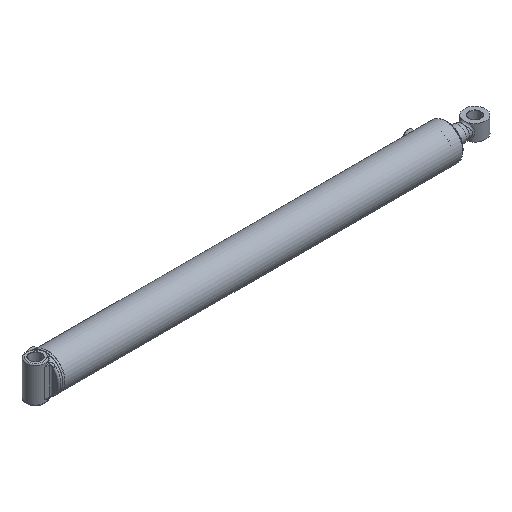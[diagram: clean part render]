
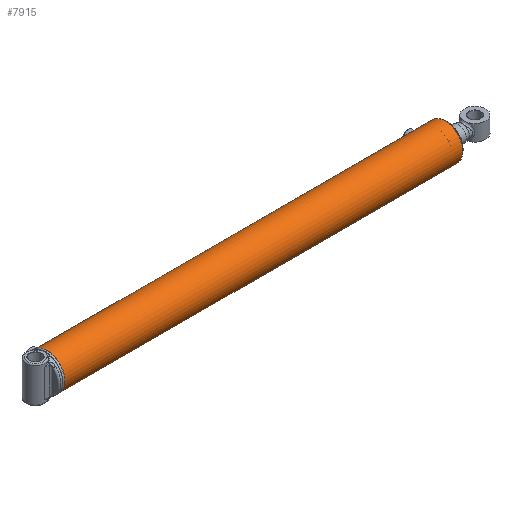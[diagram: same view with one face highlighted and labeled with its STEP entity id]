
A CAD part, isometric view. The second image highlights one B-rep face of the part: STEP entity #7915.
In plain terms, the highlighted cylindrical face has radius 49.212 mm (diameter 98.425 mm), a full revolution.
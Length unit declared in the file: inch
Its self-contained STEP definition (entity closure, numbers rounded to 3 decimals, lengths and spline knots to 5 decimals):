
#653=B_SPLINE_CURVE_WITH_KNOTS('',3,(#11899,#11900,#11901,#11902,#11903,
#11904,#11905,#11906,#11907,#11908),.UNSPECIFIED.,.F.,.F.,(4,2,2,2,4),(0.,
0.17952,0.35904,0.53855,0.71807),
 .UNSPECIFIED.);
#654=B_SPLINE_CURVE_WITH_KNOTS('',3,(#11909,#11910,#11911,#11912,#11913,
#11914,#11915,#11916,#11917,#11918,#11919,#11920,#11921,#11922,#11923,#11924,
#11925,#11926,#11927,#11928,#11929,#11930,#11931,#11932,#11933,#11934),
 .UNSPECIFIED.,.F.,.F.,(4,2,2,2,2,2,2,2,2,2,2,2,4),(0.71807,0.89759,
1.07711,1.25662,1.43614,1.61566,1.79518,
1.97469,2.15421,2.33373,2.51325,2.69276,
2.87228),.UNSPECIFIED.);
#655=B_SPLINE_CURVE_WITH_KNOTS('',3,(#11939,#11940,#11941,#11942,#11943,
#11944,#11945,#11946,#11947,#11948),.UNSPECIFIED.,.F.,.F.,(4,2,2,2,4),(0.,
0.17952,0.35904,0.53855,0.71807),
 .UNSPECIFIED.);
#656=B_SPLINE_CURVE_WITH_KNOTS('',3,(#11949,#11950,#11951,#11952,#11953,
#11954,#11955,#11956,#11957,#11958,#11959,#11960,#11961,#11962,#11963,#11964,
#11965,#11966,#11967,#11968,#11969,#11970,#11971,#11972,#11973,#11974),
 .UNSPECIFIED.,.F.,.F.,(4,2,2,2,2,2,2,2,2,2,2,2,4),(0.71807,0.89759,
1.07711,1.25662,1.43614,1.61566,1.79518,
1.97469,2.15421,2.33373,2.51325,2.69276,
2.87228),.UNSPECIFIED.);
#962=FACE_BOUND('',#2484,.T.);
#963=FACE_BOUND('',#2485,.T.);
#1244=LINE('',#12002,#1570);
#1570=VECTOR('',#9736,1.9375);
#1893=CYLINDRICAL_SURFACE('',#8765,1.9375);
#1987=FACE_OUTER_BOUND('',#2483,.T.);
#2483=EDGE_LOOP('',(#5553,#5554,#5555,#5556,#5557,#5558));
#2484=EDGE_LOOP('',(#5559,#5560));
#2485=EDGE_LOOP('',(#5561,#5562));
#3065=CIRCLE('',#8762,1.9375);
#3067=CIRCLE('',#8764,1.9375);
#3068=CIRCLE('',#8766,1.9375);
#3069=CIRCLE('',#8767,1.9375);
#3547=VERTEX_POINT('',#11896);
#3548=VERTEX_POINT('',#11898);
#3549=VERTEX_POINT('',#11936);
#3550=VERTEX_POINT('',#11938);
#3557=VERTEX_POINT('',#11995);
#3558=VERTEX_POINT('',#11996);
#3559=VERTEX_POINT('',#12001);
#3560=VERTEX_POINT('',#12003);
#4319=EDGE_CURVE('',#3548,#3547,#653,.T.);
#4320=EDGE_CURVE('',#3547,#3548,#654,.T.);
#4322=EDGE_CURVE('',#3550,#3549,#655,.T.);
#4323=EDGE_CURVE('',#3549,#3550,#656,.T.);
#4333=EDGE_CURVE('',#3557,#3558,#3065,.T.);
#4335=EDGE_CURVE('',#3558,#3557,#3067,.T.);
#4336=EDGE_CURVE('',#3557,#3559,#1244,.T.);
#4337=EDGE_CURVE('',#3560,#3559,#3068,.T.);
#4338=EDGE_CURVE('',#3559,#3560,#3069,.T.);
#5553=ORIENTED_EDGE('',*,*,#4333,.F.);
#5554=ORIENTED_EDGE('',*,*,#4336,.T.);
#5555=ORIENTED_EDGE('',*,*,#4337,.F.);
#5556=ORIENTED_EDGE('',*,*,#4338,.F.);
#5557=ORIENTED_EDGE('',*,*,#4336,.F.);
#5558=ORIENTED_EDGE('',*,*,#4335,.F.);
#5559=ORIENTED_EDGE('',*,*,#4319,.T.);
#5560=ORIENTED_EDGE('',*,*,#4320,.T.);
#5561=ORIENTED_EDGE('',*,*,#4322,.T.);
#5562=ORIENTED_EDGE('',*,*,#4323,.T.);
#7915=ADVANCED_FACE('',(#1987,#962,#963),#1893,.T.);
#8762=AXIS2_PLACEMENT_3D('',#11997,#9728,#9729);
#8764=AXIS2_PLACEMENT_3D('',#11999,#9732,#9733);
#8765=AXIS2_PLACEMENT_3D('',#12000,#9734,#9735);
#8766=AXIS2_PLACEMENT_3D('',#12004,#9737,#9738);
#8767=AXIS2_PLACEMENT_3D('',#12005,#9739,#9740);
#9728=DIRECTION('center_axis',(1.,0.,0.));
#9729=DIRECTION('ref_axis',(0.,-1.,0.));
#9732=DIRECTION('center_axis',(1.,0.,0.));
#9733=DIRECTION('ref_axis',(0.,-1.,0.));
#9734=DIRECTION('center_axis',(1.,0.,0.));
#9735=DIRECTION('ref_axis',(0.,-1.,0.));
#9736=DIRECTION('',(-1.,0.,0.));
#9737=DIRECTION('center_axis',(-1.,0.,0.));
#9738=DIRECTION('ref_axis',(0.,-1.,0.));
#9739=DIRECTION('center_axis',(-1.,0.,0.));
#9740=DIRECTION('ref_axis',(0.,-1.,0.));
#11896=CARTESIAN_POINT('',(0.7225,0.,1.9375));
#11898=CARTESIAN_POINT('',(0.91,-0.1875,1.92841));
#11899=CARTESIAN_POINT('Ctrl Pts',(0.91,-0.1875,1.92841));
#11900=CARTESIAN_POINT('Ctrl Pts',(0.88644,-0.1875,1.92841));
#11901=CARTESIAN_POINT('Ctrl Pts',(0.86132,-0.18279,
1.92888));
#11902=CARTESIAN_POINT('Ctrl Pts',(0.81513,-0.16365,
1.9306));
#11903=CARTESIAN_POINT('Ctrl Pts',(0.79406,-0.14922,
1.93182));
#11904=CARTESIAN_POINT('Ctrl Pts',(0.76078,-0.11594,
1.9341));
#11905=CARTESIAN_POINT('Ctrl Pts',(0.74635,-0.09487,
1.93531));
#11906=CARTESIAN_POINT('Ctrl Pts',(0.72721,-0.04868,
1.93703));
#11907=CARTESIAN_POINT('Ctrl Pts',(0.7225,-0.02356,1.9375));
#11908=CARTESIAN_POINT('Ctrl Pts',(0.7225,0.,1.9375));
#11909=CARTESIAN_POINT('Ctrl Pts',(0.7225,0.,1.9375));
#11910=CARTESIAN_POINT('Ctrl Pts',(0.7225,0.02356,1.9375));
#11911=CARTESIAN_POINT('Ctrl Pts',(0.72721,0.04868,
1.93703));
#11912=CARTESIAN_POINT('Ctrl Pts',(0.74635,0.09487,
1.93531));
#11913=CARTESIAN_POINT('Ctrl Pts',(0.76078,0.11594,
1.9341));
#11914=CARTESIAN_POINT('Ctrl Pts',(0.79406,0.14922,
1.93182));
#11915=CARTESIAN_POINT('Ctrl Pts',(0.81513,0.16365,
1.9306));
#11916=CARTESIAN_POINT('Ctrl Pts',(0.86132,0.18279,
1.92888));
#11917=CARTESIAN_POINT('Ctrl Pts',(0.88644,0.1875,1.92841));
#11918=CARTESIAN_POINT('Ctrl Pts',(0.93356,0.1875,1.92841));
#11919=CARTESIAN_POINT('Ctrl Pts',(0.95868,0.18279,
1.92888));
#11920=CARTESIAN_POINT('Ctrl Pts',(1.00487,0.16365,1.9306));
#11921=CARTESIAN_POINT('Ctrl Pts',(1.02594,0.14922,1.93182));
#11922=CARTESIAN_POINT('Ctrl Pts',(1.05922,0.11594,1.9341));
#11923=CARTESIAN_POINT('Ctrl Pts',(1.07365,0.09487,
1.93531));
#11924=CARTESIAN_POINT('Ctrl Pts',(1.09279,0.04868,
1.93703));
#11925=CARTESIAN_POINT('Ctrl Pts',(1.0975,0.02356,1.9375));
#11926=CARTESIAN_POINT('Ctrl Pts',(1.0975,-0.02356,1.9375));
#11927=CARTESIAN_POINT('Ctrl Pts',(1.09279,-0.04868,
1.93703));
#11928=CARTESIAN_POINT('Ctrl Pts',(1.07365,-0.09487,
1.93531));
#11929=CARTESIAN_POINT('Ctrl Pts',(1.05922,-0.11594,
1.9341));
#11930=CARTESIAN_POINT('Ctrl Pts',(1.02594,-0.14922,
1.93182));
#11931=CARTESIAN_POINT('Ctrl Pts',(1.00487,-0.16365,
1.9306));
#11932=CARTESIAN_POINT('Ctrl Pts',(0.95868,-0.18279,
1.92888));
#11933=CARTESIAN_POINT('Ctrl Pts',(0.93356,-0.1875,1.92841));
#11934=CARTESIAN_POINT('Ctrl Pts',(0.91,-0.1875,1.92841));
#11936=CARTESIAN_POINT('',(41.9425,0.,1.9375));
#11938=CARTESIAN_POINT('',(42.13,-0.1875,1.92841));
#11939=CARTESIAN_POINT('Ctrl Pts',(42.13,-0.1875,1.92841));
#11940=CARTESIAN_POINT('Ctrl Pts',(42.10644,-0.1875,
1.92841));
#11941=CARTESIAN_POINT('Ctrl Pts',(42.08132,-0.18279,
1.92888));
#11942=CARTESIAN_POINT('Ctrl Pts',(42.03513,-0.16365,
1.9306));
#11943=CARTESIAN_POINT('Ctrl Pts',(42.01406,-0.14922,1.93182));
#11944=CARTESIAN_POINT('Ctrl Pts',(41.98078,-0.11594,
1.9341));
#11945=CARTESIAN_POINT('Ctrl Pts',(41.96635,-0.09487,
1.93531));
#11946=CARTESIAN_POINT('Ctrl Pts',(41.94721,-0.04868,
1.93703));
#11947=CARTESIAN_POINT('Ctrl Pts',(41.9425,-0.02356,1.9375));
#11948=CARTESIAN_POINT('Ctrl Pts',(41.9425,0.,1.9375));
#11949=CARTESIAN_POINT('Ctrl Pts',(41.9425,0.,1.9375));
#11950=CARTESIAN_POINT('Ctrl Pts',(41.9425,0.02356,1.9375));
#11951=CARTESIAN_POINT('Ctrl Pts',(41.94721,0.04868,
1.93703));
#11952=CARTESIAN_POINT('Ctrl Pts',(41.96635,0.09487,
1.93531));
#11953=CARTESIAN_POINT('Ctrl Pts',(41.98078,0.11594,1.9341));
#11954=CARTESIAN_POINT('Ctrl Pts',(42.01406,0.14922,1.93182));
#11955=CARTESIAN_POINT('Ctrl Pts',(42.03513,0.16365,1.9306));
#11956=CARTESIAN_POINT('Ctrl Pts',(42.08132,0.18279,1.92888));
#11957=CARTESIAN_POINT('Ctrl Pts',(42.10644,0.1875,1.92841));
#11958=CARTESIAN_POINT('Ctrl Pts',(42.15356,0.1875,1.92841));
#11959=CARTESIAN_POINT('Ctrl Pts',(42.17868,0.18279,1.92888));
#11960=CARTESIAN_POINT('Ctrl Pts',(42.22487,0.16365,1.9306));
#11961=CARTESIAN_POINT('Ctrl Pts',(42.24594,0.14922,1.93182));
#11962=CARTESIAN_POINT('Ctrl Pts',(42.27922,0.11594,1.9341));
#11963=CARTESIAN_POINT('Ctrl Pts',(42.29365,0.09487,
1.93531));
#11964=CARTESIAN_POINT('Ctrl Pts',(42.31279,0.04868,1.93703));
#11965=CARTESIAN_POINT('Ctrl Pts',(42.3175,0.02356,1.9375));
#11966=CARTESIAN_POINT('Ctrl Pts',(42.3175,-0.02356,1.9375));
#11967=CARTESIAN_POINT('Ctrl Pts',(42.31279,-0.04868,
1.93703));
#11968=CARTESIAN_POINT('Ctrl Pts',(42.29365,-0.09487,
1.93531));
#11969=CARTESIAN_POINT('Ctrl Pts',(42.27922,-0.11594,
1.9341));
#11970=CARTESIAN_POINT('Ctrl Pts',(42.24594,-0.14922,1.93182));
#11971=CARTESIAN_POINT('Ctrl Pts',(42.22487,-0.16365,
1.9306));
#11972=CARTESIAN_POINT('Ctrl Pts',(42.17868,-0.18279,
1.92888));
#11973=CARTESIAN_POINT('Ctrl Pts',(42.15356,-0.1875,
1.92841));
#11974=CARTESIAN_POINT('Ctrl Pts',(42.13,-0.1875,1.92841));
#11995=CARTESIAN_POINT('',(43.56,1.9375,0.));
#11996=CARTESIAN_POINT('',(43.56,0.,-1.9375));
#11997=CARTESIAN_POINT('Origin',(43.56,0.,0.));
#11999=CARTESIAN_POINT('Origin',(43.56,0.,0.));
#12000=CARTESIAN_POINT('Origin',(0.,0.,0.));
#12001=CARTESIAN_POINT('',(0.09382,1.9375,0.));
#12002=CARTESIAN_POINT('',(0.,1.9375,0.));
#12003=CARTESIAN_POINT('',(0.09382,0.,1.9375));
#12004=CARTESIAN_POINT('Origin',(0.09382,0.,0.));
#12005=CARTESIAN_POINT('Origin',(0.09382,0.,0.));
